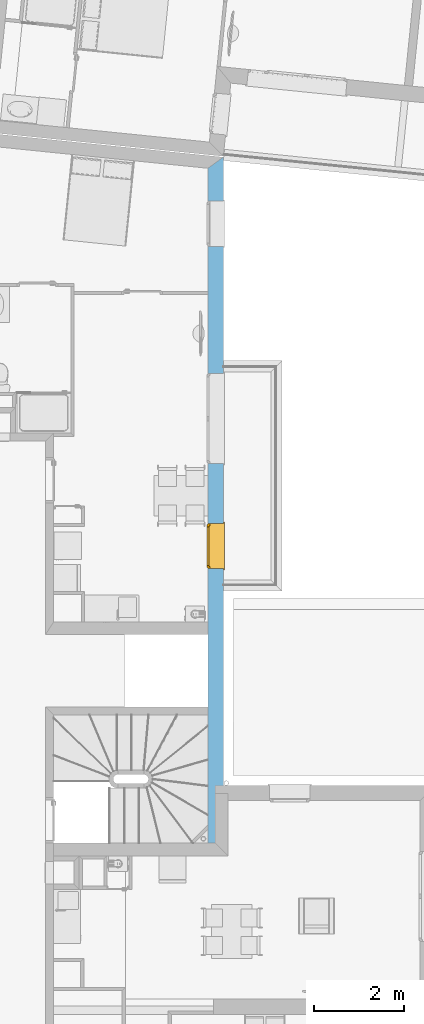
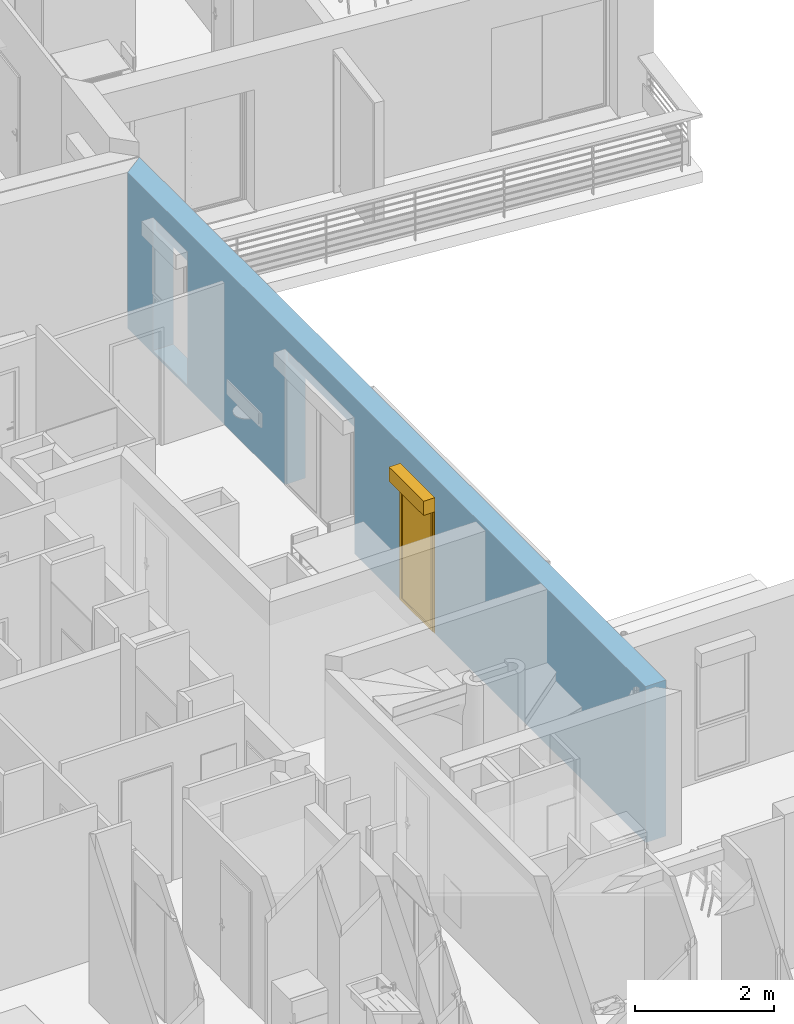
# One storey, part 34 of 164: 1 window, 3 openings, plus 1 element that does not belong to this part.
"""IFC2X3 building model written with IfcOpenShell, lengths in millimetres."""

from ifc_helpers import new_model, entity, si_unit, converted_unit, derived_unit, money_unit, direction, frame, origin_with_axes, place, context, subcontext, project, spatial, polyline, outline, extrude, open_shell, faceted_brep, surface_model, source, transform, mapped, material, layer, layer_set, layer_usage, type_object, element, fill, save


model = new_model("IFC2X3")

# Units and contexts
model_context = context("Model", 3, precision=0.01, world=origin_with_axes(), true_north=direction((0.0, 1.0)))
body_context = subcontext(model_context, "Body", "Model", "MODEL_VIEW")
ifc_project = project(units=[si_unit("LENGTHUNIT", "METRE", prefix="MILLI"), si_unit("AREAUNIT", "SQUARE_METRE"), si_unit("VOLUMEUNIT", "CUBIC_METRE"), converted_unit("PLANEANGLEUNIT", "DEGREE", entity("IfcPlaneAngleMeasure", 0.0174532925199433), si_unit("PLANEANGLEUNIT", "RADIAN"), dimensions=[0, 0, 0, 0, 0, 0, 0]), money_unit("USD"), converted_unit("TIMEUNIT", "Year", entity("IfcTimeMeasure", 31557600.0), si_unit("TIMEUNIT", "SECOND"), dimensions=[0, 0, 1, 0, 0, 0, 0]), si_unit("MASSUNIT", "GRAM", prefix="KILO"), si_unit("THERMODYNAMICTEMPERATUREUNIT", "DEGREE_CELSIUS"), si_unit("LUMINOUSINTENSITYUNIT", "LUMEN"), si_unit("ENERGYUNIT", "JOULE", prefix="MEGA"), derived_unit("THERMALCONDUCTANCEUNIT", [(si_unit("POWERUNIT", "WATT"), 1), (si_unit("LENGTHUNIT", "METRE"), -1), (si_unit("THERMODYNAMICTEMPERATUREUNIT", "KELVIN"), -1)]), derived_unit("SPECIFICHEATCAPACITYUNIT", [(si_unit("ENERGYUNIT", "JOULE"), 1), (si_unit("MASSUNIT", "GRAM", prefix="KILO"), -1), (si_unit("THERMODYNAMICTEMPERATUREUNIT", "KELVIN"), -1)]), derived_unit("MASSDENSITYUNIT", [(si_unit("MASSUNIT", "GRAM", prefix="KILO"), 1), (si_unit("VOLUMEUNIT", "CUBIC_METRE"), -1)])], contexts=[model_context])

# Site, building, storey
site_placement = place(None, origin_with_axes())
site = spatial("IfcSite", under=ifc_project, at=site_placement, Name="Site", CompositionType="ELEMENT")
building_placement = place(site_placement, origin_with_axes())
building = spatial("IfcBuilding", under=site, at=building_placement, Name="Bâtiment", CompositionType="ELEMENT")
storey_placement = place(building_placement, frame((0.0, 0.0, 5750.0), z_axis=(0.0, 0.0, 1.0), x_axis=(1.0, 0.0, 0.0)))
storey = spatial("IfcBuildingStorey", under=building, at=storey_placement, Name="Etage1", CompositionType="ELEMENT", Elevation=5750.0)

# Wall, openings, window
ifc_material_1 = material(Name="Parpaing 312445824")
ifc_layer_1 = layer(ifc_material_1, 180.0, ventilated="UNKNOWN")
ifc_material_2 = material(Name="Isolant styromousse 301821074")
ifc_layer_2 = layer(ifc_material_2, 160.0, ventilated="UNKNOWN")
ifc_layer_set = layer_set([ifc_layer_1, ifc_layer_2], Name="isol int 18+16 0018356637")
ifc_layer_usage = layer_usage(ifc_layer_set, "AXIS2", "POSITIVE", 0.0)
wall_type = type_object("IfcWallType", Name="isol int 18+16 0018356637 340", PredefinedType="NOTDEFINED")
wall_placement = place(storey_placement, frame((2229653.476036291, -637226.9969240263, 0.0), z_axis=(0.0, 0.0, 1.0), x_axis=(1.956350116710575e-10, 1.0, 0.0)))
wall = element("IfcWallStandardCase", 1, at=wall_placement, inside=storey, type_object=wall_type, material=ifc_layer_usage, Name="Mur-144", context=body_context, shape_type="SweptSolid", body=[
    extrude(outline(polyline([(0.0, 0.0), (15194.46708703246, 0.0), (14947.57710369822, 340.0000000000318), (0.0, 340.0000000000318), (0.0, 0.0)])), origin_with_axes(), (0.0, 0.0, 1.0), 2750.0),
])
opening_1_placement = place(wall_placement, frame((9401.851616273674, 0.0, 0.0), z_axis=(0.0, 0.0, 1.0), x_axis=(1.0, 0.0, 0.0)))
element("IfcOpeningElement", 2, at=opening_1_placement, cuts=wall, Name="Fen-207", context=body_context, shape_type="Brep", body=[
    faceted_brep([(999.9999999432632, 290.000002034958, 2150.0), (999.9999999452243, 280.0000020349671, 2150.0), (1000.000000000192, -1.000000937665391, 2150.0), (1000.000000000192, -1.000000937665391, 0.0), (999.9999999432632, 290.000002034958, 0.0), (999.9999999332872, 341.0000020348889, 2150.0), (999.9999998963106, 530.0000020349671, 2150.0), (999.9999998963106, 530.0000020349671, 2400.0), (999.9999999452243, 280.0000020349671, 2400.0), (-1000.000000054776, 280.0000016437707, 2150.0), (-999.9999999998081, -1.000001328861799, 2150.0), (-999.9999999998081, -1.000001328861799, 0.0), (-1000.000000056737, 290.0000016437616, 0.0), (-1000.000000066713, 341.0000016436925, 0.0), (999.9999999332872, 341.0000020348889, 0.0), (-1000.000000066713, 341.0000016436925, 2150.0), (-1000.000000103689, 530.0000016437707, 2150.0), (-1000.000000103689, 530.0000016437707, 2400.0), (-1000.000000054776, 280.0000016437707, 2400.0), (-1000.000000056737, 290.0000016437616, 2150.0)], [[[0, 1, 2, 3, 4]], [[1, 0, 5, 6, 7, 8]], [[1, 9, 10, 2]], [[10, 11, 3, 2]], [[4, 3, 11, 12, 13, 14]], [[5, 0, 4, 14]], [[5, 15, 16, 6]], [[7, 6, 16, 17]], [[8, 7, 17, 18]], [[9, 1, 8, 18]], [[9, 19, 12, 11, 10]], [[19, 15, 13, 12]], [[15, 5, 14, 13]], [[19, 9, 18, 17, 16, 15]]]),
])
opening_2_placement = place(wall_placement, frame((13719.0374769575, 0.0, 49.99999999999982), z_axis=(0.0, 0.0, 1.0), x_axis=(1.0, 0.0, 0.0)))
element("IfcOpeningElement", 3, at=opening_2_placement, cuts=wall, Name="Fen-133", context=body_context, shape_type="Brep", body=[
    faceted_brep([(499.9999999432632, 290.0000027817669, 2100.0), (499.9999999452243, 280.0000027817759, 2100.0), (500.0000000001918, -1.000000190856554, 2100.0), (500.0000000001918, -1.000000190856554, 0.0), (499.9999999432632, 290.0000027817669, 0.0), (499.9999999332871, 341.0000027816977, 2100.0), (499.9999998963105, 530.000002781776, 2100.0), (499.9999998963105, 530.000002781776, 2350.0), (499.9999999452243, 280.0000027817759, 2350.0), (-500.0000000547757, 280.0000025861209, 2100.0), (-499.9999999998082, -1.000000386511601, 2100.0), (-499.9999999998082, -1.000000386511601, 0.0), (-500.0000000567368, 290.0000025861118, 0.0), (-500.0000000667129, 341.0000025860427, 0.0), (499.9999999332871, 341.0000027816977, 0.0), (-500.0000000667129, 341.0000025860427, 2100.0), (-500.0000001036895, 530.0000025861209, 2100.0), (-500.0000001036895, 530.0000025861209, 2350.0), (-500.0000000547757, 280.0000025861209, 2350.0), (-500.0000000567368, 290.0000025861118, 2100.0)], [[[0, 1, 2, 3, 4]], [[1, 0, 5, 6, 7, 8]], [[1, 9, 10, 2]], [[10, 11, 3, 2]], [[4, 3, 11, 12, 13, 14]], [[5, 0, 4, 14]], [[5, 15, 16, 6]], [[7, 6, 16, 17]], [[8, 7, 17, 18]], [[9, 1, 8, 18]], [[9, 19, 12, 11, 10]], [[19, 15, 13, 12]], [[15, 5, 14, 13]], [[19, 9, 18, 17, 16, 15]]]),
])
opening_3_placement = place(wall_placement, frame((6575.924083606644, 0.0, 0.0), z_axis=(0.0, 0.0, 1.0), x_axis=(1.0, 0.0, 0.0)))
opening_3 = element("IfcOpeningElement", 4, at=opening_3_placement, cuts=wall, Name="Fen-134", context=body_context, shape_type="Brep", body=[
    faceted_brep([(499.9999999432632, 290.0000013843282, 2150.0), (499.9999999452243, 280.0000013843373, 2150.0), (500.0000000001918, -1.000001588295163, 2150.0), (500.0000000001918, -1.000001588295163, 0.0), (499.9999999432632, 290.0000013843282, 0.0), (499.9999999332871, 341.0000013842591, 2150.0), (499.9999998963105, 530.0000013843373, 2150.0), (499.9999998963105, 530.0000013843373, 2400.0), (499.9999999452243, 280.0000013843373, 2400.0), (-500.0000000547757, 280.0000011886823, 2150.0), (-499.9999999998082, -1.000001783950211, 2150.0), (-499.9999999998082, -1.000001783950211, 0.0), (-500.0000000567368, 290.0000011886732, 0.0), (-500.0000000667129, 341.0000011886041, 0.0), (499.9999999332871, 341.0000013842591, 0.0), (-500.0000000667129, 341.0000011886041, 2150.0), (-500.0000001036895, 530.0000011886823, 2150.0), (-500.0000001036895, 530.0000011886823, 2400.0), (-500.0000000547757, 280.0000011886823, 2400.0), (-500.0000000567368, 290.0000011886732, 2150.0)], [[[0, 1, 2, 3, 4]], [[1, 0, 5, 6, 7, 8]], [[1, 9, 10, 2]], [[10, 11, 3, 2]], [[4, 3, 11, 12, 13, 14]], [[5, 0, 4, 14]], [[5, 15, 16, 6]], [[16, 17, 7, 6]], [[17, 18, 8, 7]], [[9, 1, 8, 18]], [[9, 19, 12, 11, 10]], [[19, 15, 13, 12]], [[15, 5, 14, 13]], [[19, 9, 18, 17, 16, 15]]]),
])
window_style = type_object("IfcWindowStyle", Name="Fenêtre 27", ConstructionType="NOTDEFINED", OperationType="SINGLE_PANEL", ParameterTakesPrecedence=False, Sizeable=False)
shared_shape = source(origin_with_axes(), body_context, "Body", "SurfaceModel", [
    surface_model("IfcShellBasedSurfaceModel", [(-500.0, -51.00000000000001, 40.00000000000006), (500.0, -51.00000000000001, 40.0), (500.0, -51.00000000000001, 50.0), (-500.0, -51.00000000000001, 50.00000000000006), (-530.0, -369.9999999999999, 28.96551724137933), (530.0, -369.9999999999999, 28.96551724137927), (530.0, -339.9999999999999, 30.00324289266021), (500.0, -339.9999999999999, 30.00324289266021), (-500.0, -339.9999999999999, 30.00324289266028), (-530.0, -339.9999999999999, 30.00324289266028), (-530.0, -369.9999999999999, 8.96551724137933), (530.0, -369.9999999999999, 8.965517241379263), (-530.0, -359.9999999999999, 18.96551724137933), (530.0, -359.9999999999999, 18.96551724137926)], [open_shell([[[0, 1, 2, 3]], [[4, 5, 6, 7, 1, 0, 8, 9]], [[10, 11, 5, 4]], [[12, 13, 11, 10]]])]),
    faceted_brep([(500.0, -59.99999999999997, 2400.0), (500.0, 190.0, 2400.0), (497.0, 190.0, 2400.0), (497.0, -59.99999999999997, 2400.0), (500.0, -59.99999999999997, 2150.0), (500.0, 190.0, 2150.0), (497.0, 190.0, 2150.0), (497.0, -59.99999999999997, 2150.0)], [[[0, 1, 2, 3]], [[0, 4, 5, 1]], [[1, 5, 6, 2]], [[3, 2, 6, 7]], [[4, 0, 3, 7]], [[5, 4, 7, 6]]]),
    faceted_brep([(-497.0, -59.99999999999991, 2400.0), (-497.0, 190.0000000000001, 2400.0), (-500.0, 190.0000000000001, 2400.0), (-500.0, -59.99999999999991, 2400.0), (-497.0, -59.99999999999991, 2150.0), (-497.0, 190.0000000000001, 2150.0), (-500.0, 190.0000000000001, 2150.0), (-500.0, -59.99999999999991, 2150.0)], [[[0, 1, 2, 3]], [[0, 4, 5, 1]], [[1, 5, 6, 2]], [[3, 2, 6, 7]], [[4, 0, 3, 7]], [[5, 4, 7, 6]]]),
    faceted_brep([(497.0, -60.0, 2150.0), (497.0, -60.0, 2400.0), (-497.0, -59.99999999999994, 2400.0), (-497.0, -59.99999999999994, 2150.0), (497.0, -56.99999999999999, 2150.0), (497.0, -56.99999999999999, 2397.0), (497.0, 187.0, 2397.0), (497.0, 187.0, 2153.0), (497.0, -37.99999999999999, 2153.0), (497.0, -37.99999999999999, 2150.0), (497.0, 190.0, 2150.0), (497.0, 190.0, 2400.0), (-497.0, 190.0000000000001, 2400.0), (-497.0, 190.0000000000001, 2150.0), (-497.0, -37.99999999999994, 2150.0), (-497.0, -37.99999999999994, 2153.0), (-497.0, 187.0000000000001, 2153.0), (-497.0, 187.0000000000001, 2397.0), (-497.0, -56.99999999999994, 2397.0), (-497.0, -56.99999999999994, 2150.0)], [[[0, 1, 2, 3]], [[0, 4, 5, 6, 7, 8, 9, 10, 11, 1]], [[1, 11, 12, 2]], [[3, 2, 12, 13, 14, 15, 16, 17, 18, 19]], [[4, 0, 3, 19]], [[5, 4, 19, 18]], [[6, 5, 18, 17]], [[7, 6, 17, 16]], [[8, 7, 16, 15]], [[9, 8, 15, 14]], [[10, 9, 14, 13]], [[11, 10, 13, 12]]]),
    faceted_brep([(494.0, -40.37442957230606, 2256.419644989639), (494.0, -35.54711042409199, 2238.403844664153), (494.0, -27.66471820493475, 2221.5), (494.0, -16.9667554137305, 2206.22172576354), (494.0, -3.778274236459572, 2193.033244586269), (494.0, 11.50000000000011, 2182.335281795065), (494.0, 28.40384466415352, 2174.452889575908), (494.0, 46.4196449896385, 2169.625570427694), (494.0, 65.00000000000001, 2168.0), (494.0, 83.58035501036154, 2169.625570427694), (494.0, 101.5961553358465, 2174.452889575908), (494.0, 118.4999999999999, 2182.335281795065), (494.0, 133.7782742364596, 2193.033244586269), (494.0, 146.9667554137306, 2206.22172576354), (494.0, 157.6647182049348, 2221.5), (494.0, 165.5471104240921, 2238.403844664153), (494.0, 170.3744295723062, 2256.419644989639), (494.0, 171.9999999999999, 2275.0), (494.0, 170.3744295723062, 2293.580355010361), (494.0, 165.5471104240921, 2311.596155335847), (494.0, 157.6647182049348, 2328.5), (494.0, 146.9667554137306, 2343.77827423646), (494.0, 133.7782742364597, 2356.96675541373), (494.0, 118.5, 2367.664718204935), (494.0, 101.5961553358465, 2375.547110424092), (494.0, 83.58035501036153, 2380.374429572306), (494.0, 64.99999999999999, 2382.0), (494.0, 46.41964498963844, 2380.374429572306), (494.0, 28.40384466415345, 2375.547110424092), (494.0, 11.5, 2367.664718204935), (494.0, -3.778274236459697, 2356.96675541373), (494.0, -16.96675541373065, 2343.77827423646), (494.0, -27.66471820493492, 2328.5), (494.0, -35.54711042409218, 2311.596155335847), (494.0, -40.37442957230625, 2293.580355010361), (494.0, -41.99999999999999, 2275.0), (-494.0, -40.374429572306, 2256.419644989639), (-494.0, -35.54711042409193, 2238.403844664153), (-494.0, -27.6647182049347, 2221.5), (-494.0, -16.96675541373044, 2206.22172576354), (-494.0, -3.778274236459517, 2193.033244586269), (-494.0, 11.50000000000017, 2182.335281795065), (-494.0, 28.40384466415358, 2174.452889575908), (-494.0, 46.41964498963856, 2169.625570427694), (-494.0, 65.00000000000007, 2168.0), (-494.0, 83.5803550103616, 2169.625570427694), (-494.0, 101.5961553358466, 2174.452889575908), (-494.0, 118.5, 2182.335281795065), (-494.0, 133.7782742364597, 2193.033244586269), (-494.0, 146.9667554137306, 2206.22172576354), (-494.0, 157.6647182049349, 2221.5), (-494.0, 165.5471104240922, 2238.403844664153), (-494.0, 170.3744295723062, 2256.419644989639), (-494.0, 172.0, 2275.0), (-494.0, 170.3744295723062, 2293.580355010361), (-494.0, 165.5471104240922, 2311.596155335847), (-494.0, 157.6647182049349, 2328.5), (-494.0, 146.9667554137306, 2343.77827423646), (-494.0, 133.7782742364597, 2356.96675541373), (-494.0, 118.5, 2367.664718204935), (-494.0, 101.5961553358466, 2375.547110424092), (-494.0, 83.58035501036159, 2380.374429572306), (-494.0, 65.00000000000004, 2382.0), (-494.0, 46.41964498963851, 2380.374429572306), (-494.0, 28.40384466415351, 2375.547110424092), (-494.0, 11.50000000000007, 2367.664718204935), (-494.0, -3.778274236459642, 2356.96675541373), (-494.0, -16.96675541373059, 2343.77827423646), (-494.0, -27.66471820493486, 2328.5), (-494.0, -35.54711042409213, 2311.596155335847), (-494.0, -40.37442957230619, 2293.580355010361), (-494.0, -41.99999999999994, 2275.0)], [[[0, 1, 2, 3, 4, 5, 6, 7, 8, 9, 10, 11, 12, 13, 14, 15, 16, 17, 18, 19, 20, 21, 22, 23, 24, 25, 26, 27, 28, 29, 30, 31, 32, 33, 34, 35]], [[1, 0, 36, 37]], [[2, 1, 37, 38]], [[3, 2, 38, 39]], [[4, 3, 39, 40]], [[5, 4, 40, 41]], [[6, 5, 41, 42]], [[7, 6, 42, 43]], [[8, 7, 43, 44]], [[9, 8, 44, 45]], [[10, 9, 45, 46]], [[11, 10, 46, 47]], [[12, 11, 47, 48]], [[13, 12, 48, 49]], [[14, 13, 49, 50]], [[15, 14, 50, 51]], [[16, 15, 51, 52]], [[17, 16, 52, 53]], [[18, 17, 53, 54]], [[19, 18, 54, 55]], [[20, 19, 55, 56]], [[21, 20, 56, 57]], [[22, 21, 57, 58]], [[23, 22, 58, 59]], [[24, 23, 59, 60]], [[25, 24, 60, 61]], [[26, 25, 61, 62]], [[27, 26, 62, 63]], [[28, 27, 63, 64]], [[29, 28, 64, 65]], [[30, 29, 65, 66]], [[31, 30, 66, 67]], [[32, 31, 67, 68]], [[33, 32, 68, 69]], [[34, 33, 69, 70]], [[35, 34, 70, 71]], [[0, 35, 71, 36]], [[36, 71, 70, 69, 68, 67, 66, 65, 64, 63, 62, 61, 60, 59, 58, 57, 56, 55, 54, 53, 52, 51, 50, 49, 48, 47, 46, 45, 44, 43, 42, 41, 40, 39, 38, 37]]]),
    faceted_brep([(-500.0, -34.99999999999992, 30.0), (-500.0, -59.99999999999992, 30.0), (-500.0, -59.99999999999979, 2150.0), (-500.0, -34.99999999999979, 2150.0), (-475.0, -34.99999999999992, 30.0), (-475.0, -37.99999999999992, 30.0), (-497.0, -37.99999999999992, 30.0), (-497.0, -56.99999999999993, 30.0), (-475.0, -56.99999999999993, 30.0), (-475.0, -59.99999999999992, 30.0), (-475.0, -59.99999999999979, 2150.0), (-475.0, -56.99999999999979, 2150.0), (-497.0, -56.99999999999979, 2150.0), (-497.0, -37.99999999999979, 2150.0), (-475.0, -37.99999999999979, 2150.0), (-475.0, -34.99999999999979, 2150.0)], [[[0, 1, 2, 3]], [[0, 4, 5, 6, 7, 8, 9, 1]], [[1, 9, 10, 2]], [[3, 2, 10, 11, 12, 13, 14, 15]], [[4, 0, 3, 15]], [[5, 4, 15, 14]], [[6, 5, 14, 13]], [[7, 6, 13, 12]], [[8, 7, 12, 11]], [[9, 8, 11, 10]]]),
    faceted_brep([(500.0, -34.99999999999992, 30.0), (500.0, -34.99999999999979, 2150.0), (500.0, -59.99999999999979, 2150.0), (500.0, -59.99999999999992, 30.0), (475.0, -34.99999999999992, 30.0), (475.0, -34.99999999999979, 2150.0), (475.0, -37.99999999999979, 2150.0), (497.0, -37.99999999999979, 2150.0), (497.0, -56.99999999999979, 2150.0), (475.0, -56.99999999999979, 2150.0), (475.0, -59.99999999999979, 2150.0), (475.0, -59.99999999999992, 30.0), (475.0, -56.99999999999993, 30.0), (497.0, -56.99999999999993, 30.0), (497.0, -37.99999999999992, 30.0), (475.0, -37.99999999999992, 30.0)], [[[0, 1, 2, 3]], [[4, 5, 1, 0]], [[1, 5, 6, 7, 8, 9, 10, 2]], [[3, 2, 10, 11]], [[0, 3, 11, 12, 13, 14, 15, 4]], [[15, 6, 5, 4]], [[14, 7, 6, 15]], [[13, 8, 7, 14]], [[12, 9, 8, 13]], [[11, 10, 9, 12]]]),
    faceted_brep([(-497.0, -46.66666666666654, 2275.0), (497.0, -46.6666666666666, 2275.0), (497.0, -46.6666666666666, 2266.666666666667), (-497.0, -46.66666666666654, 2266.666666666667), (-497.0, -51.66666666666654, 2275.0), (497.0, -51.6666666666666, 2275.0), (497.0, -51.6666666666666, 2266.666666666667), (497.0, -49.99999999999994, 2250.0), (497.0, -44.99999999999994, 2250.0), (-497.0, -44.99999999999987, 2250.0), (-497.0, -49.99999999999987, 2250.0), (-497.0, -51.66666666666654, 2266.666666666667)], [[[0, 1, 2, 3]], [[1, 0, 4, 5]], [[1, 5, 6, 7, 8, 2]], [[2, 8, 9, 3]], [[4, 0, 3, 9, 10, 11]], [[6, 5, 4, 11]], [[7, 6, 11, 10]], [[8, 7, 10, 9]]]),
    faceted_brep([(497.0, -44.99999999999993, 2250.0), (497.0, -46.6666666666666, 2233.333333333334), (-497.0, -46.66666666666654, 2233.333333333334), (-497.0, -44.99999999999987, 2250.0), (497.0, -49.99999999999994, 2250.0), (497.0, -51.6666666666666, 2233.333333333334), (497.0, -51.6666666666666, 2216.666666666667), (497.0, -49.99999999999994, 2200.0), (497.0, -44.99999999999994, 2200.0), (497.0, -46.6666666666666, 2216.666666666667), (-497.0, -46.66666666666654, 2216.666666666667), (-497.0, -44.99999999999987, 2200.0), (-497.0, -49.99999999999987, 2200.0), (-497.0, -51.66666666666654, 2216.666666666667), (-497.0, -51.66666666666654, 2233.333333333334), (-497.0, -49.99999999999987, 2250.0)], [[[0, 1, 2, 3]], [[0, 4, 5, 6, 7, 8, 9, 1]], [[1, 9, 10, 2]], [[3, 2, 10, 11, 12, 13, 14, 15]], [[4, 0, 3, 15]], [[5, 4, 15, 14]], [[6, 5, 14, 13]], [[7, 6, 13, 12]], [[8, 7, 12, 11]], [[9, 8, 11, 10]]]),
    faceted_brep([(497.0, -44.99999999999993, 2200.0), (497.0, -46.6666666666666, 2183.333333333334), (-497.0, -46.66666666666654, 2183.333333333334), (-497.0, -44.99999999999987, 2200.0), (497.0, -49.99999999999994, 2200.0), (497.0, -51.6666666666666, 2183.333333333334), (497.0, -51.6666666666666, 2166.666666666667), (497.0, -49.99999999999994, 2150.000000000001), (497.0, -44.99999999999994, 2150.000000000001), (497.0, -46.6666666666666, 2166.666666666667), (-497.0, -46.66666666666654, 2166.666666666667), (-497.0, -44.99999999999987, 2150.000000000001), (-497.0, -49.99999999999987, 2150.000000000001), (-497.0, -51.66666666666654, 2166.666666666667), (-497.0, -51.66666666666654, 2183.333333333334), (-497.0, -49.99999999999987, 2200.0)], [[[0, 1, 2, 3]], [[0, 4, 5, 6, 7, 8, 9, 1]], [[1, 9, 10, 2]], [[3, 2, 10, 11, 12, 13, 14, 15]], [[4, 0, 3, 15]], [[5, 4, 15, 14]], [[6, 5, 14, 13]], [[7, 6, 13, 12]], [[8, 7, 12, 11]], [[9, 8, 11, 10]]]),
    faceted_brep([(475.0000000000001, 0.0, 2100.0), (475.0000000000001, -25.00000000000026, 2100.0), (450.0, -25.00000000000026, 2100.0), (450.0, -50.00000000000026, 2100.0), (500.0, -50.00000000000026, 2100.0), (500.0, 0.0, 2100.0), (475.0000000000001, 0.0, 50.00000000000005), (475.0000000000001, -25.00000000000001, 50.00000000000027), (450.0, -25.00000000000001, 50.00000000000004), (450.0, -50.00000000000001, 50.00000000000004), (500.0, -50.00000000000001, 50.00000000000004), (500.0, 0.0, 50.00000000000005)], [[[0, 1, 2, 3, 4, 5]], [[1, 0, 6, 7]], [[8, 2, 1, 7]], [[2, 8, 9, 3]], [[4, 3, 9, 10]], [[5, 4, 10, 11]], [[6, 0, 5, 11]], [[7, 6, 11, 10, 9, 8]]]),
    faceted_brep([(-450.0, -25.00000000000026, 2100.0), (-475.0000000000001, -25.00000000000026, 2100.0), (-475.0000000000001, 0.0, 2100.0), (-500.0, 0.0, 2100.0), (-500.0, -50.00000000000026, 2100.0), (-450.0, -50.00000000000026, 2100.0), (-450.0, -25.00000000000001, 50.00000000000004), (-475.0000000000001, -25.00000000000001, 50.00000000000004), (-475.0000000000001, 0.0, 50.00000000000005), (-500.0, 0.0, 50.00000000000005), (-500.0, -50.00000000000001, 50.00000000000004), (-450.0, -50.00000000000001, 50.00000000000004)], [[[0, 1, 2, 3, 4, 5]], [[1, 0, 6, 7]], [[8, 2, 1, 7]], [[2, 8, 9, 3]], [[9, 10, 4, 3]], [[10, 11, 5, 4]], [[6, 0, 5, 11]], [[7, 6, 11, 10, 9, 8]]]),
    faceted_brep([(-450.0, -25.00000000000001, 50.00000000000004), (-475.0000000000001, -25.00000000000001, 50.00000000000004), (-475.0000000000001, 0.0, 50.00000000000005), (-500.0, 0.0, 50.00000000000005), (-500.0, -50.00000000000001, 50.00000000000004), (-450.0, -50.00000000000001, 50.00000000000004), (450.0, -25.00000000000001, 50.00000000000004), (475.0000000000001, -25.00000000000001, 50.00000000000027), (475.0000000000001, -25.0, 24.99999999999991), (-475.0000000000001, -25.0, 24.99999999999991), (-475.0000000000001, 0.0, 24.99999999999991), (475.0000000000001, 0.0, 24.99999999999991), (475.0000000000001, 0.0, 50.00000000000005), (500.0, 0.0, 50.00000000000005), (500.0, 0.0, 0.0), (-500.0, 0.0, 0.0), (-500.0, -50.0, 0.0), (500.0, -50.00000000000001, 50.00000000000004), (450.0, -50.00000000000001, 50.00000000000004), (500.0, -50.0, 0.0)], [[[0, 1, 2, 3, 4, 5]], [[1, 0, 6, 7, 8, 9]], [[10, 2, 1, 9]], [[11, 12, 13, 14, 15, 3, 2, 10]], [[15, 16, 4, 3]], [[17, 18, 5, 4, 16, 19]], [[6, 0, 5, 18]], [[7, 6, 18, 17, 13, 12]], [[7, 12, 11, 8]], [[11, 10, 9, 8]], [[13, 17, 19, 14]], [[14, 19, 16, 15]]]),
    faceted_brep([(475.0000000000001, 0.0, 2100.0), (475.0000000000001, 0.0, 2125.0), (-475.0000000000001, 0.0, 2125.0), (-475.0000000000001, 0.0, 2100.0), (-500.0, 0.0, 2100.0), (-500.0, 0.0, 2150.0), (500.0, 0.0, 2150.0), (500.0, 0.0, 2100.0), (475.0000000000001, -25.00000000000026, 2100.0), (475.0000000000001, -25.00000000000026, 2125.0), (-475.0000000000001, -25.00000000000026, 2125.0), (-475.0000000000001, -25.00000000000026, 2100.0), (-450.0, -25.00000000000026, 2100.0), (-450.0, -50.00000000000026, 2100.0), (-500.0, -50.00000000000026, 2100.0), (-500.0, -50.00000000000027, 2150.0), (500.0, -50.00000000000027, 2150.0), (500.0, -50.00000000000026, 2100.0), (450.0, -50.00000000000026, 2100.0), (450.0, -25.00000000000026, 2100.0)], [[[0, 1, 2, 3, 4, 5, 6, 7]], [[1, 0, 8, 9]], [[2, 1, 9, 10]], [[3, 2, 10, 11]], [[11, 12, 13, 14, 4, 3]], [[4, 14, 15, 5]], [[5, 15, 16, 6]], [[6, 16, 17, 7]], [[8, 0, 7, 17, 18, 19]], [[12, 11, 10, 9, 8, 19]], [[12, 19, 18, 13]], [[14, 13, 18, 17, 16, 15]]]),
    faceted_brep([(425.0000000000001, -25.00000000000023, 2075.0), (475.0000000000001, -25.00000000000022, 2075.0), (475.0000000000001, 24.99999999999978, 2075.0), (425.0000000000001, 24.99999999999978, 2075.0), (425.0000000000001, -24.99999999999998, 75.00000000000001), (475.0000000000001, -24.99999999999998, 75.00000000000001), (475.0000000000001, 25.00000000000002, 75.00000000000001), (425.0000000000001, 25.00000000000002, 75.00000000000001)], [[[0, 1, 2, 3]], [[0, 4, 5, 1]], [[1, 5, 6, 2]], [[3, 2, 6, 7]], [[4, 0, 3, 7]], [[5, 4, 7, 6]]]),
    faceted_brep([(-425.0000000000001, -25.00000000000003, 75.00000000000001), (-475.0000000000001, -25.00000000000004, 75.00000000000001), (-475.0000000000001, 24.99999999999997, 75.00000000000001), (-425.0000000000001, 24.99999999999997, 75.00000000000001), (-425.0000000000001, -25.00000000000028, 2075.0), (-475.0000000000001, -25.00000000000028, 2075.0), (-475.0000000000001, 24.99999999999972, 2075.0), (-425.0000000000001, 24.99999999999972, 2075.0)], [[[0, 1, 2, 3]], [[0, 4, 5, 1]], [[1, 5, 6, 2]], [[3, 2, 6, 7]], [[4, 0, 3, 7]], [[5, 4, 7, 6]]]),
    faceted_brep([(-475.0000000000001, -25.00000000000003, 25.0), (-475.0000000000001, -25.00000000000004, 75.00000000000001), (-475.0000000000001, 24.99999999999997, 75.00000000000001), (-475.0000000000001, 24.99999999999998, 25.00000000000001), (475.0000000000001, -24.99999999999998, 25.0), (475.0000000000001, -24.99999999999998, 75.00000000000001), (425.0000000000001, -24.99999999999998, 75.00000000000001), (-425.0000000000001, -25.00000000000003, 75.00000000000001), (-425.0000000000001, 24.99999999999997, 75.00000000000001), (425.0000000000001, 25.00000000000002, 75.00000000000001), (475.0000000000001, 25.00000000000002, 75.00000000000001), (475.0000000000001, 25.00000000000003, 25.00000000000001)], [[[0, 1, 2, 3]], [[0, 4, 5, 6, 7, 1]], [[1, 7, 8, 2]], [[3, 2, 8, 9, 10, 11]], [[4, 0, 3, 11]], [[5, 4, 11, 10]], [[6, 5, 10, 9]], [[7, 6, 9, 8]]]),
    faceted_brep([(475.0000000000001, -25.00000000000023, 2125.0), (475.0000000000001, -25.00000000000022, 2075.0), (475.0000000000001, 24.99999999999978, 2075.0), (475.0000000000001, 24.99999999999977, 2125.0), (-475.0000000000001, -25.00000000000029, 2125.0), (-475.0000000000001, -25.00000000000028, 2075.0), (-425.0000000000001, -25.00000000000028, 2075.0), (425.0000000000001, -25.00000000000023, 2075.0), (425.0000000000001, 24.99999999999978, 2075.0), (-425.0000000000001, 24.99999999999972, 2075.0), (-475.0000000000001, 24.99999999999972, 2075.0), (-475.0000000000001, 24.99999999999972, 2125.0)], [[[0, 1, 2, 3]], [[0, 4, 5, 6, 7, 1]], [[1, 7, 8, 2]], [[3, 2, 8, 9, 10, 11]], [[4, 0, 3, 11]], [[5, 4, 11, 10]], [[6, 5, 10, 9]], [[7, 6, 9, 8]]]),
    surface_model("IfcShellBasedSurfaceModel", [(425.0000000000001, -10.00000000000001, 75.00000000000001), (425.0000000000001, -10.00000000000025, 2075.0), (-425.0000000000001, -10.00000000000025, 2075.0), (-425.0000000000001, -10.00000000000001, 75.00000000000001)], [open_shell([[[0, 1, 2, 3]]])]),
    surface_model("IfcShellBasedSurfaceModel", [(425.0000000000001, 9.999999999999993, 75.00000000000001), (-425.0000000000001, 9.999999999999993, 75.00000000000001), (-425.0000000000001, 9.99999999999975, 2075.0), (425.0000000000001, 9.99999999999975, 2075.0)], [open_shell([[[0, 1, 2, 3]]])]),
])
window_placement = place(opening_3_placement, frame((-500.0000000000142, -1.13686837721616e-10, 0.0), z_axis=(0.0, 0.0, 1.0), x_axis=(1.0, 0.0, 0.0)))
window = element("IfcWindow", 5, at=window_placement, inside=storey, type_object=window_style, Name="Fen-134", OverallHeight=2150.0, OverallWidth=1000.0, context=body_context, shape_type="MappedRepresentation", body=[
    mapped(shared_shape, transform((499.9999999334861, 340.0000012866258, 0.0))),
])
fill(opening_3, window)

save(model, "model.ifc")
